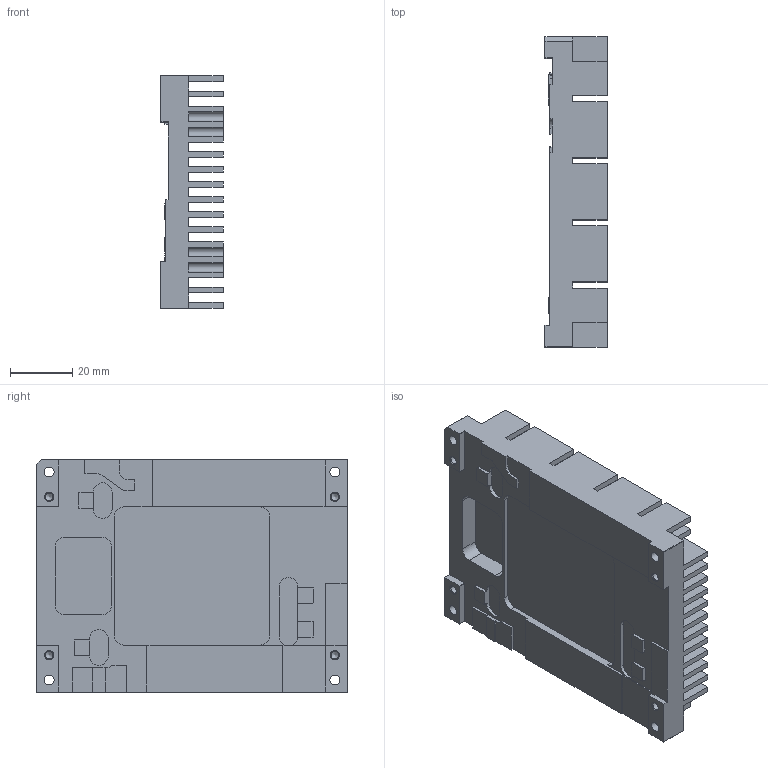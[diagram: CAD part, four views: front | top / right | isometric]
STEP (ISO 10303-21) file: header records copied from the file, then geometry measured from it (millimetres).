
FILE_DESCRIPTION (( 'STEP AP214' ), '1' );
FILE_NAME ('34503.STEP', '2024-10-23T10:55:10', ( '' ), ( '' ), 'SwSTEP 2.0', 'SolidWorks 2018', '' );
FILE_SCHEMA (( 'AUTOMOTIVE_DESIGN' ));
Length unit declared in the file: millimetre
Products named in the file (1): 34503
Bounding box: 20 x 100 x 75 mm (x, y, z)
Volume: 75705.2 mm3; surface area: 53894.5 mm2
Topology: 1 solids, 1 shells, 562 faces, 1525 edges, 1006 vertices
Faces by surface type: plane 449, cylinder 85, cone 28
Full cylindrical faces by diameter (mm): 2.5 x12, 3.2 x4
Entity records: 17314 total; most frequent: CARTESIAN_POINT 3026, ORIENTED_EDGE 2938, DIRECTION 2782, EDGE_CURVE 1469, LINE 1282, VECTOR 1282, VERTEX_POINT 994, AXIS2_PLACEMENT_3D 750
